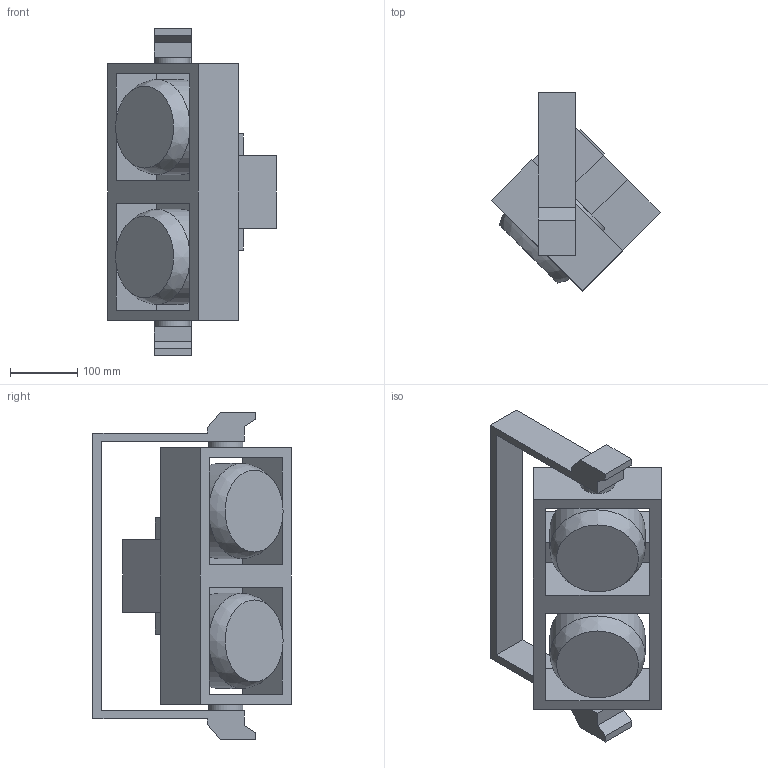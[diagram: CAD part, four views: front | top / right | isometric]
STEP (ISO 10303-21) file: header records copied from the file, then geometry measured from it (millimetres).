
FILE_DESCRIPTION(/* description */ (''),/* implementation_level */ '2;1');
FILE_NAME(/* name */ 'Strike Array 2C_45.stp',/* time_stamp */ '2024-02-20T15:16:36-05:00',/* author */ ('chenry'),/* organization */ (''),/* preprocessor_version */ 'ST-DEVELOPER v20',/* originating_system */ 'Autodesk Inventor 2024',/* authorisation */ '');
FILE_SCHEMA (('AUTOMOTIVE_DESIGN { 1 0 10303 214 3 1 1 }'));
Length unit declared in the file: millimetre
Products named in the file (3): Strike Array 2C_0; body; Arm
Assembly tree (2 placements, depth 2):
  Strike Array 2C_0
    body
    Arm
Bounding box: 249.81 x 293.52 x 485.98 mm (x, y, z)
Volume: 7695395.7 mm3; surface area: 598769.6 mm2
Topology: 2 solids, 2 shells, 72 faces, 184 edges, 120 vertices
Faces by surface type: plane 62, cylinder 6, bspline 4
Full cylindrical faces by diameter (mm): 51.026 x4, 140.958 x2
Entity records: 2381 total; most frequent: CARTESIAN_POINT 505, ORIENTED_EDGE 368, DIRECTION 350, EDGE_CURVE 184, LINE 156, VECTOR 156, VERTEX_POINT 120, AXIS2_PLACEMENT_3D 97
